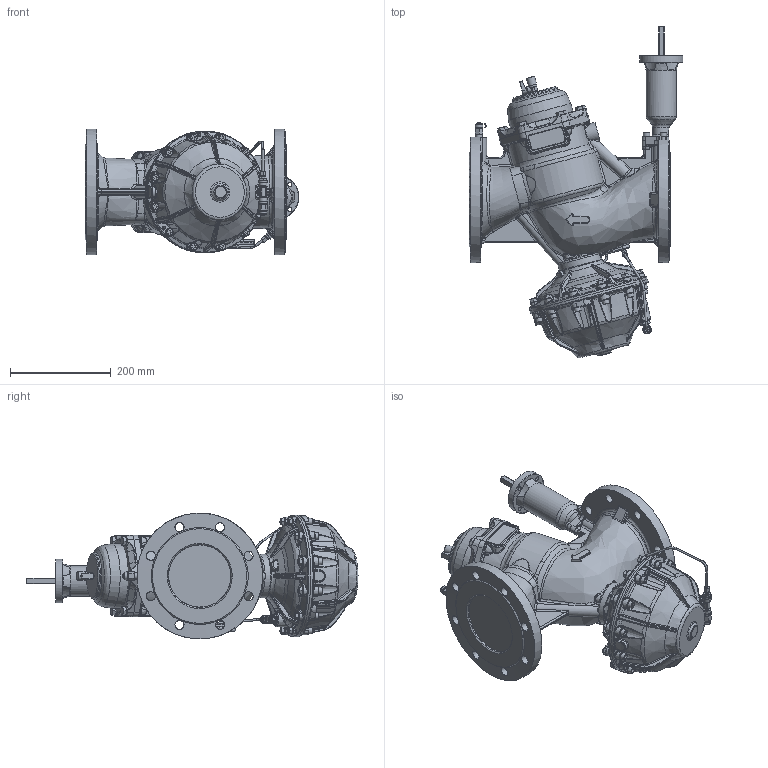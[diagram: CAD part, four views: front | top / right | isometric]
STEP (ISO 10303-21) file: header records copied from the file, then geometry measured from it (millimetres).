
FILE_DESCRIPTION (( 'STEP AP203' ), '1' );
FILE_NAME ('EKOFLUX.PI12516 b.STEP', '2017-12-18T07:30:10', ( 'dell2' ), ( 'Microsoft' ), 'SwSTEP 2.0', 'SolidWorks 2014', '' );
FILE_SCHEMA (( 'CONFIG_CONTROL_DESIGN' ));
Products named in the file (1): EKOFLUX.PI12516 b
Bounding box: 424.81 x 659.31 x 249.94 mm (x, y, z)
Volume: 16634739.2 mm3; surface area: 749205.7 mm2
Topology: 1 solids, 33 shells, 3368 faces, 8087 edges, 4794 vertices
Faces by surface type: bspline 1574, plane 803, cylinder 527, cone 464
Full cylindrical faces by diameter (mm): 3.8 x2, 4 x9, 5.659 x2, 6.5 x5, 6.7 x1, 6.75 x3, 7.4 x3, 7.895 x1, 8 x17, 8.5 x19, 8.9 x2, 9 x4, 9.2 x2, 9.349 x2, 9.6 x1, 9.7 x3, 9.8 x4, 11.445 x2, 11.45 x1, 11.5 x4, 11.7 x1, 12 x1, 13 x15, 13.15 x1, 13.157 x3, 15 x3, 15.6 x1, 16 x4, 16.6 x1, 16.8 x2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
Entity records: 225835 total; most frequent: CARTESIAN_POINT 164535, ORIENTED_EDGE 15198, DIRECTION 8530, EDGE_CURVE 7599, VERTEX_POINT 4610, B_SPLINE_CURVE_WITH_KNOTS 4252, EDGE_LOOP 3765, FACE_OUTER_BOUND 3547
